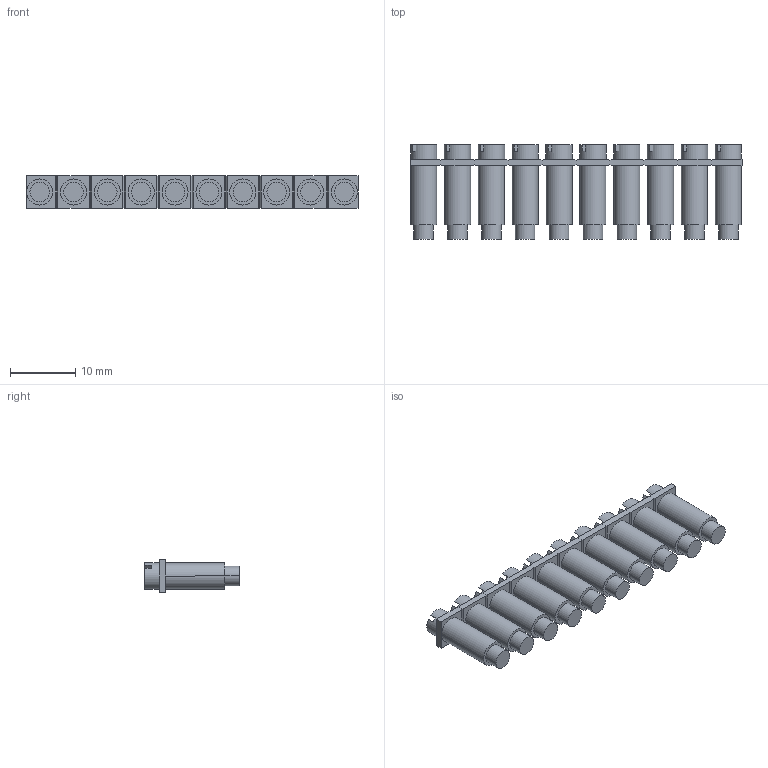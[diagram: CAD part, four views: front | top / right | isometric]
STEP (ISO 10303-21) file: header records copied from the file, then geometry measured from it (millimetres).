
FILE_DESCRIPTION( ('This file contains a STEP AP42 implementation' ,'as created by ZW3D STEP Interface translator.') ,'2;1' );
FILE_NAME( 'FBI 10-5桥接件-模型.stp' ,'231227.164157', (''), ('ZWCAD Software Co.'), 'Version 1.0', 'ZW3D to STEP translator', '' );
FILE_SCHEMA(('AUTOMOTIVE_DESIGN { 1 0 10303 214 1 1 1 1 }'));
Length unit declared in the file: millimetre
Products named in the file (2): 0; FBI 10-5 C+H-CAP桥接件-模型
Bounding box: 51 x 14.5 x 5 mm (x, y, z)
Volume: 1805.7 mm3; surface area: 2332 mm2
Topology: 1 solids, 1 shells, 180 faces, 444 edges, 296 vertices
Faces by surface type: plane 130, cylinder 50
Full cylindrical faces by diameter (mm): 4.05 x10
Entity records: 5558 total; most frequent: DIRECTION 946, CARTESIAN_POINT 921, ORIENTED_EDGE 888, EDGE_CURVE 444, AXIS2_PLACEMENT_3D 321, VECTOR 304, LINE 304, VERTEX_POINT 296
